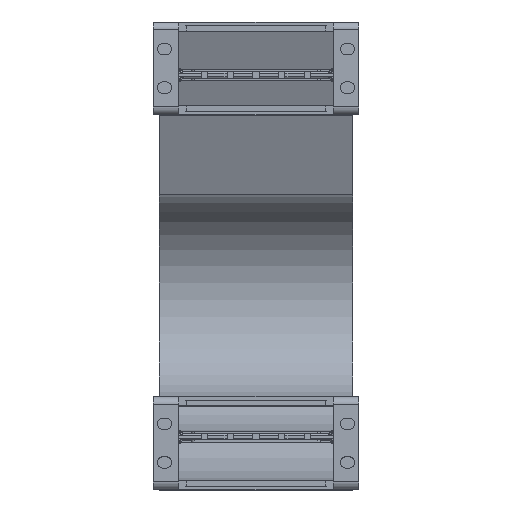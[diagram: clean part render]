
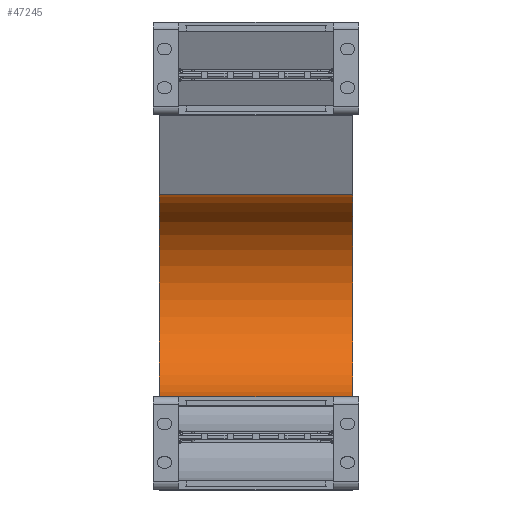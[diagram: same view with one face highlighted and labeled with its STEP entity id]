
A CAD part, top view. The second image highlights one B-rep face of the part: STEP entity #47245.
In plain terms, the highlighted cylindrical face has radius 39.5 mm (diameter 79 mm), a partial arc.
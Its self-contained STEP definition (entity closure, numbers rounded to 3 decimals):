
#46397=DIRECTION('',(-1.,0.,0.));
#46398=VECTOR('',#46397,75.);
#46399=CARTESIAN_POINT('',(37.5,36.,-400.));
#46400=LINE('',#46399,#46398);
#46411=DIRECTION('',(-1.,0.,0.));
#46412=VECTOR('',#46411,75.);
#46413=CARTESIAN_POINT('',(37.5,114.849,-403.448));
#46414=LINE('',#46413,#46412);
#46418=CARTESIAN_POINT('',(37.5,75.5,-400.));
#46419=DIRECTION('',(-1.,0.,0.));
#46420=DIRECTION('',(0.,0.996,-0.087));
#46421=AXIS2_PLACEMENT_3D('',#46418,#46419,#46420);
#46497=CARTESIAN_POINT('',(-37.5,75.5,-400.));
#46498=DIRECTION('',(-1.,0.,0.));
#46499=DIRECTION('',(0.,0.996,-0.087));
#46500=AXIS2_PLACEMENT_3D('',#46497,#46498,#46499);
#46619=CARTESIAN_POINT('',(37.5,114.849,-403.448));
#46620=CARTESIAN_POINT('',(-37.5,114.849,-403.448));
#46621=VERTEX_POINT('',#46619);
#46622=VERTEX_POINT('',#46620);
#46643=CARTESIAN_POINT('',(37.5,36.,-400.));
#46644=CARTESIAN_POINT('',(-37.5,36.,-400.));
#46645=VERTEX_POINT('',#46643);
#46646=VERTEX_POINT('',#46644);
#47231=CARTESIAN_POINT('',(1.,75.5,-400.));
#47232=DIRECTION('',(-1.,0.,0.));
#47233=DIRECTION('',(0.,-0.996,0.087));
#47234=AXIS2_PLACEMENT_3D('',#47231,#47232,#47233);
#47235=CYLINDRICAL_SURFACE('',#47234,39.5);
#47237=ORIENTED_EDGE('',*,*,#47236,.F.);
#47239=ORIENTED_EDGE('',*,*,#47238,.T.);
#47240=ORIENTED_EDGE('',*,*,#47214,.T.);
#47242=ORIENTED_EDGE('',*,*,#47241,.F.);
#47243=EDGE_LOOP('',(#47237,#47239,#47240,#47242));
#47244=FACE_OUTER_BOUND('',#47243,.F.);
#46422=CIRCLE('',#46421,39.5);
#46501=CIRCLE('',#46500,39.5);
#47214=EDGE_CURVE('',#46645,#46646,#46400,.T.);
#47236=EDGE_CURVE('',#46621,#46622,#46414,.T.);
#47238=EDGE_CURVE('',#46621,#46645,#46422,.T.);
#47241=EDGE_CURVE('',#46622,#46646,#46501,.T.);
#47245=ADVANCED_FACE('',(#47244),#47235,.F.);
